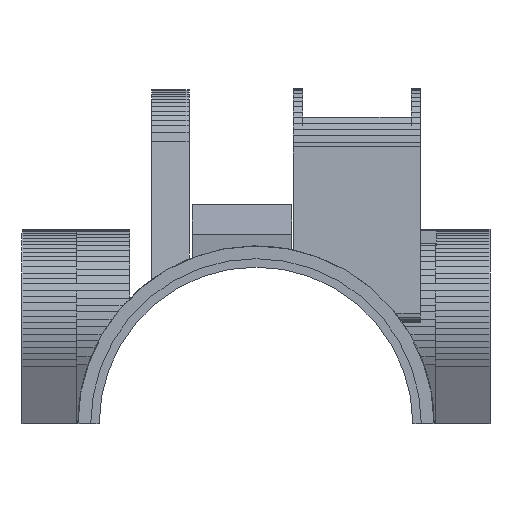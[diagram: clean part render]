
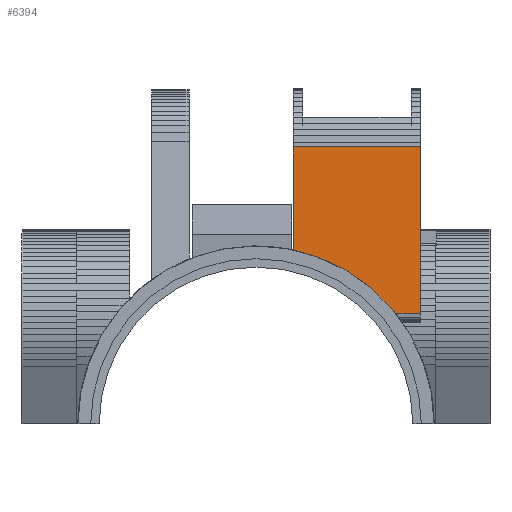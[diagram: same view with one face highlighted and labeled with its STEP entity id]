
A CAD part, left-side view. The second image highlights one B-rep face of the part: STEP entity #6394.
In plain terms, the highlighted planar face has unit normal (-1, 0, 0.015).
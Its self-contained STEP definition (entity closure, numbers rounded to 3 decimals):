
#79 = CYLINDRICAL_SURFACE('',#80,21.);
#80 = AXIS2_PLACEMENT_3D('',#81,#82,#83);
#81 = CARTESIAN_POINT('',(20.,0.,0.));
#82 = DIRECTION('',(1.,0.,0.));
#83 = DIRECTION('',(0.,0.,-1.));
#1881 = VERTEX_POINT('',#1882);
#1882 = CARTESIAN_POINT('',(23.8,-16.492,13.));
#1900 = PLANE('',#1901);
#1901 = AXIS2_PLACEMENT_3D('',#1902,#1903,#1904);
#1902 = CARTESIAN_POINT('',(23.876,-19.4,12.617));
#1903 = DIRECTION('',(0.981,0.,0.195));
#1904 = DIRECTION('',(-0.195,0.,0.981));
#1912 = EDGE_CURVE('',#1913,#1881,#1915,.T.);
#1913 = VERTEX_POINT('',#1914);
#1914 = CARTESIAN_POINT('',(23.916,-4.4,20.534));
#1915 = SURFACE_CURVE('',#1916,(#1921,#1932),.PCURVE_S1.);
#1916 = ELLIPSE('',#1917,21.002,21.);
#1917 = AXIS2_PLACEMENT_3D('',#1918,#1919,#1920);
#1918 = CARTESIAN_POINT('',(23.6,0.,0.));
#1919 = DIRECTION('',(1.,0.,-0.015));
#1920 = DIRECTION('',(0.015,0.,1.));
#1921 = PCURVE('',#79,#1922);
#1922 = DEFINITIONAL_REPRESENTATION('',(#1923),#1931);
#1923 = B_SPLINE_CURVE_WITH_KNOTS('',6,(#1924,#1925,#1926,#1927,#1928,
    #1929,#1930),.UNSPECIFIED.,.F.,.F.,(7,7),(0.139,
    1.018),.PIECEWISE_BEZIER_KNOTS.);
#1924 = CARTESIAN_POINT('',(3.28,3.92));
#1925 = CARTESIAN_POINT('',(3.427,3.913));
#1926 = CARTESIAN_POINT('',(3.573,3.898));
#1927 = CARTESIAN_POINT('',(3.72,3.876));
#1928 = CARTESIAN_POINT('',(3.866,3.846));
#1929 = CARTESIAN_POINT('',(4.013,3.81));
#1930 = CARTESIAN_POINT('',(4.159,3.77));
#1931 = ( GEOMETRIC_REPRESENTATION_CONTEXT(2) 
PARAMETRIC_REPRESENTATION_CONTEXT() REPRESENTATION_CONTEXT('2D SPACE',''
  ) );
#1932 = PCURVE('',#1933,#1938);
#1933 = PLANE('',#1934);
#1934 = AXIS2_PLACEMENT_3D('',#1935,#1936,#1937);
#1935 = CARTESIAN_POINT('',(23.8,-19.4,13.));
#1936 = DIRECTION('',(1.,-0.,-0.015));
#1937 = DIRECTION('',(0.015,0.,1.));
#1938 = DEFINITIONAL_REPRESENTATION('',(#1939),#1943);
#1939 = ELLIPSE('',#1940,21.002,21.);
#1940 = AXIS2_PLACEMENT_2D('',#1941,#1942);
#1941 = CARTESIAN_POINT('',(-13.002,-19.4));
#1942 = DIRECTION('',(1.,0.));
#1943 = ( GEOMETRIC_REPRESENTATION_CONTEXT(2) 
PARAMETRIC_REPRESENTATION_CONTEXT() REPRESENTATION_CONTEXT('2D SPACE',''
  ) );
#1960 = PLANE('',#1961);
#1961 = AXIS2_PLACEMENT_3D('',#1962,#1963,#1964);
#1962 = CARTESIAN_POINT('',(42.392,-4.4,24.974));
#1963 = DIRECTION('',(0.,1.,-0.));
#1964 = DIRECTION('',(-1.,0.,0.));
#5222 = PLANE('',#5223);
#5223 = AXIS2_PLACEMENT_3D('',#5224,#5225,#5226);
#5224 = CARTESIAN_POINT('',(42.392,-19.4,24.974));
#5225 = DIRECTION('',(0.,1.,-0.));
#5226 = DIRECTION('',(-1.,0.,0.));
#5308 = EDGE_CURVE('',#1913,#5309,#5311,.T.);
#5309 = VERTEX_POINT('',#5310);
#5310 = CARTESIAN_POINT('',(24.102,-4.4,32.677));
#5311 = SURFACE_CURVE('',#5312,(#5316,#5323),.PCURVE_S1.);
#5312 = LINE('',#5313,#5314);
#5313 = CARTESIAN_POINT('',(23.8,-4.4,13.));
#5314 = VECTOR('',#5315,1.);
#5315 = DIRECTION('',(0.015,0.,1.));
#5316 = PCURVE('',#1960,#5317);
#5317 = DEFINITIONAL_REPRESENTATION('',(#5318),#5322);
#5318 = LINE('',#5319,#5320);
#5319 = CARTESIAN_POINT('',(18.592,-11.974));
#5320 = VECTOR('',#5321,1.);
#5321 = DIRECTION('',(-0.015,1.));
#5322 = ( GEOMETRIC_REPRESENTATION_CONTEXT(2) 
PARAMETRIC_REPRESENTATION_CONTEXT() REPRESENTATION_CONTEXT('2D SPACE',''
  ) );
#5323 = PCURVE('',#1933,#5324);
#5324 = DEFINITIONAL_REPRESENTATION('',(#5325),#5329);
#5325 = LINE('',#5326,#5327);
#5326 = CARTESIAN_POINT('',(0.,-15.));
#5327 = VECTOR('',#5328,1.);
#5328 = DIRECTION('',(1.,0.));
#5329 = ( GEOMETRIC_REPRESENTATION_CONTEXT(2) 
PARAMETRIC_REPRESENTATION_CONTEXT() REPRESENTATION_CONTEXT('2D SPACE',''
  ) );
#5347 = PLANE('',#5348);
#5348 = AXIS2_PLACEMENT_3D('',#5349,#5350,#5351);
#5349 = CARTESIAN_POINT('',(24.102,-19.4,32.677));
#5350 = DIRECTION('',(0.998,-0.,-0.061));
#5351 = DIRECTION('',(0.061,0.,0.998));
#6394 = ADVANCED_FACE('',(#6395),#1933,.F.);
#6395 = FACE_BOUND('',#6396,.F.);
#6396 = EDGE_LOOP('',(#6397,#6422,#6443,#6444,#6445));
#6397 = ORIENTED_EDGE('',*,*,#6398,.F.);
#6398 = EDGE_CURVE('',#6399,#6401,#6403,.T.);
#6399 = VERTEX_POINT('',#6400);
#6400 = CARTESIAN_POINT('',(23.8,-19.4,13.));
#6401 = VERTEX_POINT('',#6402);
#6402 = CARTESIAN_POINT('',(24.102,-19.4,32.677));
#6403 = SURFACE_CURVE('',#6404,(#6408,#6415),.PCURVE_S1.);
#6404 = LINE('',#6405,#6406);
#6405 = CARTESIAN_POINT('',(23.8,-19.4,13.));
#6406 = VECTOR('',#6407,1.);
#6407 = DIRECTION('',(0.015,0.,1.));
#6408 = PCURVE('',#1933,#6409);
#6409 = DEFINITIONAL_REPRESENTATION('',(#6410),#6414);
#6410 = LINE('',#6411,#6412);
#6411 = CARTESIAN_POINT('',(0.,0.));
#6412 = VECTOR('',#6413,1.);
#6413 = DIRECTION('',(1.,0.));
#6414 = ( GEOMETRIC_REPRESENTATION_CONTEXT(2) 
PARAMETRIC_REPRESENTATION_CONTEXT() REPRESENTATION_CONTEXT('2D SPACE',''
  ) );
#6415 = PCURVE('',#5222,#6416);
#6416 = DEFINITIONAL_REPRESENTATION('',(#6417),#6421);
#6417 = LINE('',#6418,#6419);
#6418 = CARTESIAN_POINT('',(18.592,-11.974));
#6419 = VECTOR('',#6420,1.);
#6420 = DIRECTION('',(-0.015,1.));
#6421 = ( GEOMETRIC_REPRESENTATION_CONTEXT(2) 
PARAMETRIC_REPRESENTATION_CONTEXT() REPRESENTATION_CONTEXT('2D SPACE',''
  ) );
#6422 = ORIENTED_EDGE('',*,*,#6423,.T.);
#6423 = EDGE_CURVE('',#6399,#1881,#6424,.T.);
#6424 = SURFACE_CURVE('',#6425,(#6429,#6436),.PCURVE_S1.);
#6425 = LINE('',#6426,#6427);
#6426 = CARTESIAN_POINT('',(23.8,-19.4,13.));
#6427 = VECTOR('',#6428,1.);
#6428 = DIRECTION('',(0.,1.,-0.));
#6429 = PCURVE('',#1933,#6430);
#6430 = DEFINITIONAL_REPRESENTATION('',(#6431),#6435);
#6431 = LINE('',#6432,#6433);
#6432 = CARTESIAN_POINT('',(0.,0.));
#6433 = VECTOR('',#6434,1.);
#6434 = DIRECTION('',(0.,-1.));
#6435 = ( GEOMETRIC_REPRESENTATION_CONTEXT(2) 
PARAMETRIC_REPRESENTATION_CONTEXT() REPRESENTATION_CONTEXT('2D SPACE',''
  ) );
#6436 = PCURVE('',#1900,#6437);
#6437 = DEFINITIONAL_REPRESENTATION('',(#6438),#6442);
#6438 = LINE('',#6439,#6440);
#6439 = CARTESIAN_POINT('',(0.39,0.));
#6440 = VECTOR('',#6441,1.);
#6441 = DIRECTION('',(0.,-1.));
#6442 = ( GEOMETRIC_REPRESENTATION_CONTEXT(2) 
PARAMETRIC_REPRESENTATION_CONTEXT() REPRESENTATION_CONTEXT('2D SPACE',''
  ) );
#6443 = ORIENTED_EDGE('',*,*,#1912,.F.);
#6444 = ORIENTED_EDGE('',*,*,#5308,.T.);
#6445 = ORIENTED_EDGE('',*,*,#6446,.F.);
#6446 = EDGE_CURVE('',#6401,#5309,#6447,.T.);
#6447 = SURFACE_CURVE('',#6448,(#6452,#6459),.PCURVE_S1.);
#6448 = LINE('',#6449,#6450);
#6449 = CARTESIAN_POINT('',(24.102,-19.4,32.677));
#6450 = VECTOR('',#6451,1.);
#6451 = DIRECTION('',(0.,1.,-0.));
#6452 = PCURVE('',#1933,#6453);
#6453 = DEFINITIONAL_REPRESENTATION('',(#6454),#6458);
#6454 = LINE('',#6455,#6456);
#6455 = CARTESIAN_POINT('',(19.679,0.));
#6456 = VECTOR('',#6457,1.);
#6457 = DIRECTION('',(0.,-1.));
#6458 = ( GEOMETRIC_REPRESENTATION_CONTEXT(2) 
PARAMETRIC_REPRESENTATION_CONTEXT() REPRESENTATION_CONTEXT('2D SPACE',''
  ) );
#6459 = PCURVE('',#5347,#6460);
#6460 = DEFINITIONAL_REPRESENTATION('',(#6461),#6465);
#6461 = LINE('',#6462,#6463);
#6462 = CARTESIAN_POINT('',(0.,0.));
#6463 = VECTOR('',#6464,1.);
#6464 = DIRECTION('',(0.,-1.));
#6465 = ( GEOMETRIC_REPRESENTATION_CONTEXT(2) 
PARAMETRIC_REPRESENTATION_CONTEXT() REPRESENTATION_CONTEXT('2D SPACE',''
  ) );
